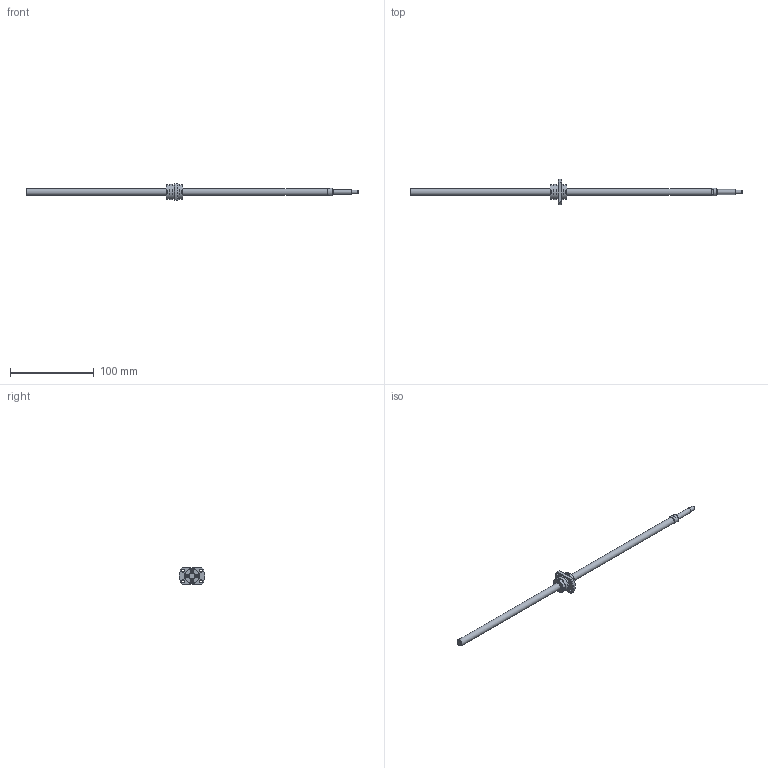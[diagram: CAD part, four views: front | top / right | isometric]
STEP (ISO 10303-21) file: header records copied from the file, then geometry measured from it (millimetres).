
FILE_DESCRIPTION(/* description */ ('STEP AP214'),/* implementation_level */ '2;1');
FILE_NAME(/* name */ 'SRT0808-356R397C7A0X(167.5Processing)',/* time_stamp */ '2026-08-04T20:04:26+02:00',/* author */ ('License CC BY-ND 4.0'),/* organization */ ('CADENAS'),/* preprocessor_version */ 'ST-DEVELOPER v20',/* originating_system */ 'PARTsolutions',/* authorisation */ ' ');
FILE_SCHEMA (('AUTOMOTIVE_DESIGN {1 0 10303 214 3 1 1}'));
Length unit declared in the file: millimetre
Products named in the file (3): SRT0808-356R397C7A0X(167.5Processing); SRT0808-356R430ACt7Processing46Shaft; SRT0808Nut
Assembly tree (2 placements, depth 2):
  SRT0808-356R397C7A0X(167.5Processing)
    SRT0808-356R430ACt7Processing46Shaft
    SRT0808Nut
Bounding box: 397 x 30.91 x 20 mm (x, y, z)
Volume: 24294.1 mm3; surface area: 13022.2 mm2
Topology: 2 solids, 2 shells, 150 faces, 359 edges, 236 vertices
Faces by surface type: plane 107, cylinder 32, cone 10, torus 1
Full cylindrical faces by diameter (mm): 3 x8, 3.4 x4, 4.5 x1, 6 x1, 8 x2, 9.5 x1, 17.5 x2, 17.7 x1, 18 x2
Entity records: 4267 total; most frequent: CARTESIAN_POINT 737, DIRECTION 718, ORIENTED_EDGE 654, EDGE_CURVE 327, AXIS2_PLACEMENT_3D 246, VERTEX_POINT 233, LINE 226, VECTOR 226
